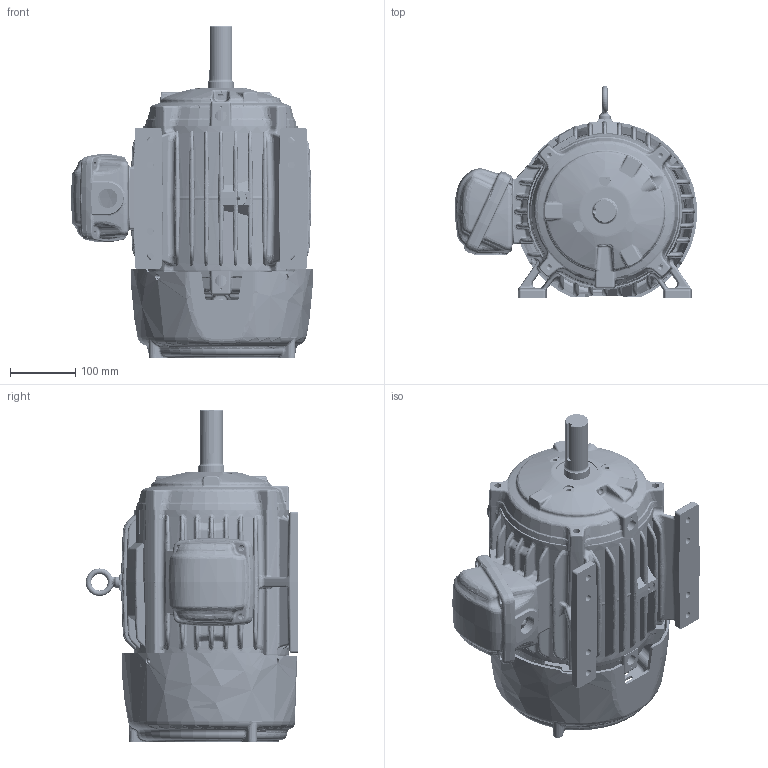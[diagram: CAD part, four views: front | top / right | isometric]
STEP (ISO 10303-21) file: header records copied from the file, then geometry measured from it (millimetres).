
FILE_DESCRIPTION((''),'2;1');
FILE_NAME('210_FOOTED_ASM_ASM','2014-06-26T',('NMC779F'),('Nidec Motor Corporation'),'PRO/ENGINEER BY PARAMETRIC TECHNOLOGY CORPORATION, 2013150','PRO/ENGINEER BY PARAMETRIC TECHNOLOGY CORPORATION, 2013150','');
FILE_SCHEMA(('CONFIG_CONTROL_DESIGN'));
Products named in the file (10): 0396420; 0376439; 0359144; 0345787; 0143237; 0366170; 0075740; 0133167; 0376440; 210_FOOTED_ASM_ASM
Assembly tree (9 placements, depth 2):
  210_FOOTED_ASM_ASM
    0396420
    0376439
    0359144
    0345787
    0143237
    0366170
    0075740
    0133167
    0376440
Bounding box: 370.63 x 325.33 x 508.11 mm (x, y, z)
Volume: 5699647.8 mm3; surface area: 1439814.5 mm2
Topology: 11 solids, 11 shells, 4102 faces, 9921 edges, 5832 vertices
Faces by surface type: bspline 2103, cylinder 607, plane 570, torus 354, cone 244, sphere 201, revolution 12, extrusion 11
Entity records: 201073 total; most frequent: CARTESIAN_POINT 121095, ORIENTED_EDGE 19754, DIRECTION 12474, EDGE_CURVE 9877, VERTEX_POINT 5832, AXIS2_PLACEMENT_3D 5440, B_SPLINE_CURVE_WITH_KNOTS 4884, EDGE_LOOP 4299
